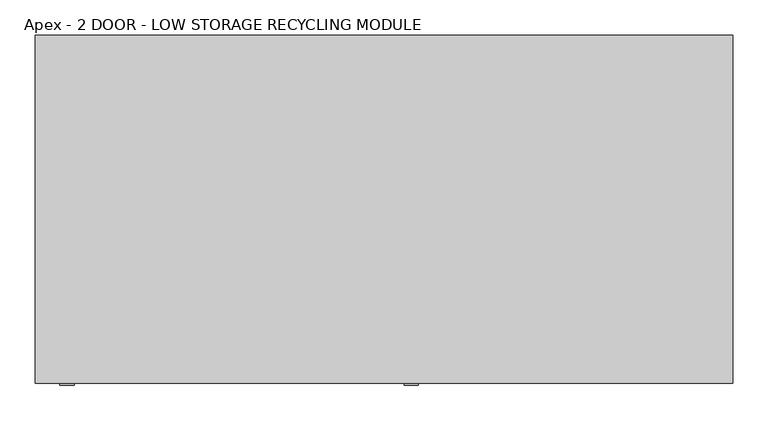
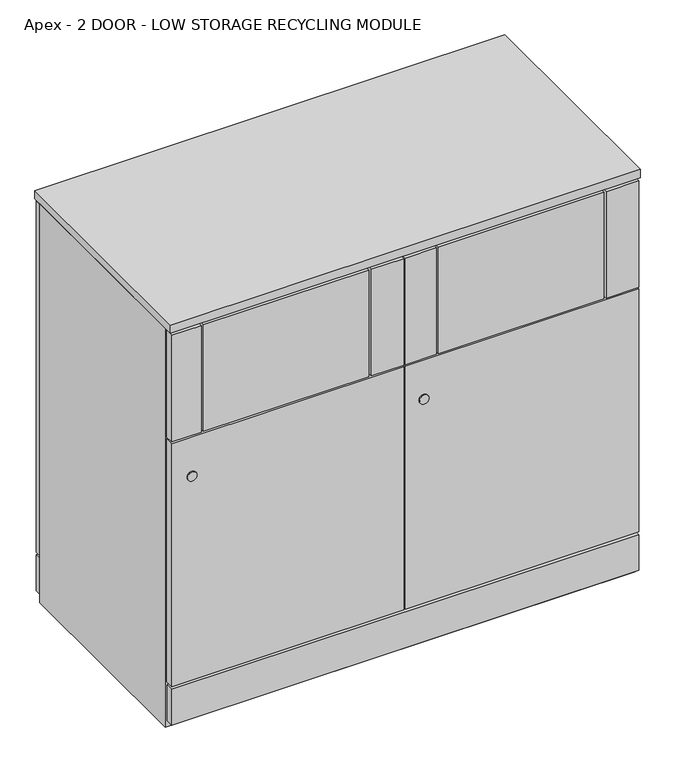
"""IFC4 building model written with IfcOpenShell, lengths in millimetres: furniture geometry, Apex - 2 DOOR - LOW STORAGE RECYCLING MODULE : APEX-SW-18-RCFP2 500mm(w) x 490mm(d) x 1028mm(h)."""

from ifc_helpers import new_model, si_unit, point, frame, frame_2d, origin, place, context, project, spatial, polyline, circle_curve, trimmed, segment, composite_curve, outline, extrude, source, transform, mapped, element, save


def apex_2_door_low_storage_recycling_module_7fa907ea(model_context):
    return source(origin(), model_context, "Body", "SweptSolid", [
        extrude(outline(polyline([(487.997937, -490.0), (3.0, -490.0), (3.0, -472.0), (487.997937, -472.0), (487.997937, -490.0)])), frame((0.0, 0.0, 100.0), z_axis=(0.0, 0.0, 1.0), x_axis=(1.0, 0.0, 0.0)), (0.0, 0.0, 1.0), 537.0),
        extrude(outline(composite_curve([segment(trimmed(circle_curve(frame_2d((551.6890437, 529.3693484)), 10.0), [point((551.6890437, 519.3693484))], [point((551.6890437, 539.3693484))], False, "CARTESIAN"), True, "CONTINUOUS"), segment(trimmed(circle_curve(frame_2d((551.6890437, 529.3693484)), 10.0), [point((551.6890437, 539.3693484))], [point((551.6890437, 519.3693484))], False, "CARTESIAN"), True, "CONTINUOUS")], self_intersect=False)), frame((0.0, -492.5494383, 0.0), z_axis=(0.0, 1.0, 0.0), x_axis=(0.0, 0.0, 1.0)), (0.0, 0.0, 1.0), 2.5494383),
        extrude(outline(polyline([(905.7470625, -490.0), (560.0666177, -490.0), (560.0666177, -472.0), (905.7470625, -472.0), (905.7470625, -490.0)])), frame((0.0, 0.0, 640.627164), z_axis=(0.0, 0.0, 1.0), x_axis=(1.0, 0.0, 0.0)), (0.0, 0.0, 1.0), 235.372836),
        extrude(outline(polyline([(555.6784443, -490.0), (491.0, -490.0), (491.0, -472.0), (555.6784443, -472.0), (555.6784443, -490.0)])), frame((0.0, 0.0, 640.627164), z_axis=(0.0, 0.0, 1.0), x_axis=(1.0, 0.0, 0.0)), (0.0, 0.0, 1.0), 235.372836),
        extrude(outline(polyline([(978.7449995, -490.0), (910.7470625, -490.0), (910.7470625, -472.0), (978.7449995, -472.0), (978.7449995, -490.0)])), frame((0.0, 0.0, 640.627164), z_axis=(0.0, 0.0, 1.0), x_axis=(1.0, 0.0, 0.0)), (0.0, 0.0, 1.0), 235.372836),
        extrude(outline(composite_curve([segment(trimmed(circle_curve(frame_2d((551.6890437, 44.3714114)), 10.0), [point((551.6890437, 34.3714114))], [point((551.6890437, 54.3714114))], False, "CARTESIAN"), True, "CONTINUOUS"), segment(trimmed(circle_curve(frame_2d((551.6890437, 44.3714114)), 10.0), [point((551.6890437, 54.3714114))], [point((551.6890437, 34.3714114))], False, "CARTESIAN"), True, "CONTINUOUS")], self_intersect=False)), frame((0.0, -492.5494383, 0.0), z_axis=(0.0, 1.0, 0.0), x_axis=(0.0, 0.0, 1.0)), (0.0, 0.0, 1.0), 2.5494383),
        extrude(outline(polyline([(415.0, -490.0), (69.3195552, -490.0), (69.3195552, -472.0), (415.0, -472.0), (415.0, -490.0)])), frame((0.0, 0.0, 640.627164), z_axis=(0.0, 0.0, 1.0), x_axis=(1.0, 0.0, 0.0)), (0.0, 0.0, 1.0), 235.372836),
        extrude(outline(polyline([(64.9313817, -490.0), (3.0, -490.0), (3.0, -472.0), (64.9313817, -472.0), (64.9313817, -490.0)])), frame((0.0, 0.0, 640.627164), z_axis=(0.0, 0.0, 1.0), x_axis=(1.0, 0.0, 0.0)), (0.0, 0.0, 1.0), 235.372836),
        extrude(outline(polyline([(487.997937, -490.0), (420.0, -490.0), (420.0, -472.0), (487.997937, -472.0), (487.997937, -490.0)])), frame((0.0, 0.0, 640.627164), z_axis=(0.0, 0.0, 1.0), x_axis=(1.0, 0.0, 0.0)), (0.0, 0.0, 1.0), 235.372836),
        extrude(outline(polyline([(979.0, -490.0), (491.0, -490.0), (491.0, -472.0), (979.0, -472.0), (979.0, -490.0)])), frame((0.0, 0.0, 100.0), z_axis=(0.0, 0.0, 1.0), x_axis=(1.0, 0.0, 0.0)), (0.0, 0.0, 1.0), 537.0),
        extrude(outline(polyline([(982.0, -490.0), (0.0, -490.0), (0.0, 0.0), (982.0, 0.0), (982.0, -490.0)])), frame((0.0, 0.0, 882.0), z_axis=(0.0, 0.0, 1.0), x_axis=(1.0, 0.0, 0.0)), (0.0, 0.0, 1.0), 18.0),
        extrude(outline(polyline([(882.0, 982.0), (882.0, 0.0), (0.0, 0.0), (0.0, 982.0), (882.0, 982.0)]), holes=[polyline([(100.0, 487.997937), (100.0, 3.0), (637.0, 3.0), (637.0, 487.997937), (100.0, 487.997937)])]), frame((0.0, -472.0, 0.0), z_axis=(0.0, 1.0, 0.0), x_axis=(0.0, 0.0, 1.0)), (0.0, 0.0, 1.0), 454.0),
        extrude(outline(polyline([(979.0, 0.0), (979.0, -18.0), (3.0, -18.0), (3.0, 0.0), (979.0, 0.0)])), frame((0.0, 0.0, 100.0), z_axis=(0.0, 0.0, 1.0), x_axis=(1.0, 0.0, 0.0)), (0.0, 0.0, 1.0), 776.0),
        extrude(outline(polyline([(979.0, -18.0), (3.0, -18.0), (3.0, 0.0), (979.0, 0.0), (979.0, -18.0)])), frame((0.0, 0.0, 15.0), z_axis=(0.0, 0.0, 1.0), x_axis=(1.0, 0.0, 0.0)), (0.0, 0.0, 1.0), 79.0),
        extrude(outline(polyline([(979.0, -490.0), (3.0, -490.0), (3.0, -472.0), (979.0, -472.0), (979.0, -490.0)])), frame((0.0, 0.0, 15.0), z_axis=(0.0, 0.0, 1.0), x_axis=(1.0, 0.0, 0.0)), (0.0, 0.0, 1.0), 79.0),
    ])


if __name__ == "__main__":
    model = new_model("IFC4")
    model_context = context("Model", 3, world=origin())
    ifc_project = project(units=[si_unit("LENGTHUNIT", "METRE", prefix="MILLI")], contexts=[model_context])
    site = spatial("IfcSite", under=ifc_project)
    building = spatial("IfcBuilding", under=site)
    placement = place(None, origin())
    apex_2_door_low_storage_recycling_module_shape = apex_2_door_low_storage_recycling_module_7fa907ea(model_context)
    element("IfcFurniture", 1, ObjectType="Apex - 2 DOOR - LOW STORAGE RECYCLING MODULE : APEX-SW-18-RCFP2 500mm(w) x 490mm(d) x 1028mm(h)", at=placement, inside=building, context=model_context, shape_type="MappedRepresentation", body=[
        mapped(apex_2_door_low_storage_recycling_module_shape, transform((0.0, 0.0, 0.0), x_axis=(1.0, 0.0, 0.0), y_axis=(0.0, 1.0, 0.0), z_axis=(0.0, 0.0, 1.0))),
    ])
    save(model, "model.ifc")
